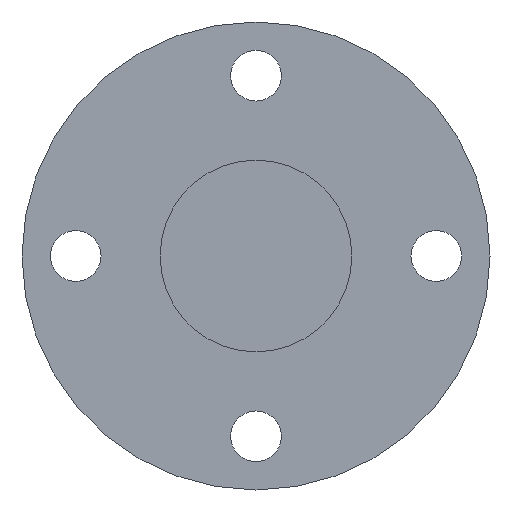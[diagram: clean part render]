
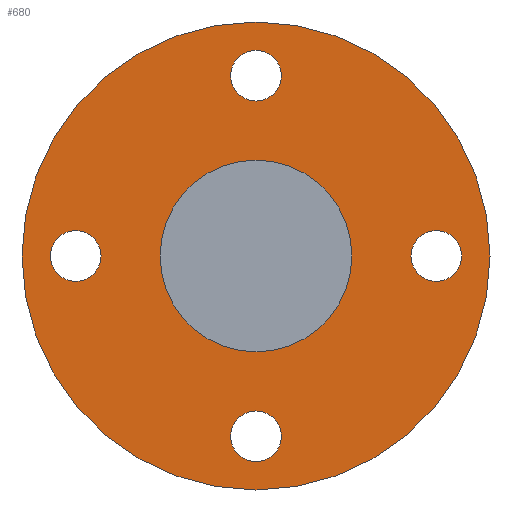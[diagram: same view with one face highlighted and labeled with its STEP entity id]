
A CAD part, left-side view. The second image highlights one B-rep face of the part: STEP entity #680.
In plain terms, the highlighted planar face has unit normal (-1, 0, 0).
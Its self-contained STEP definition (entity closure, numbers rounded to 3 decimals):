
#569=CARTESIAN_POINT('',(125.0,23.5,-3.3));
#570=VERTEX_POINT('',#569);
#571=CARTESIAN_POINT('',(125.0,23.5,0.));
#572=DIRECTION('',(1.0,0.0,0.0));
#573=DIRECTION('',(0.0,0.0,-1.0));
#574=AXIS2_PLACEMENT_3D('',#571,#572,#573);
#575=CIRCLE('',#574,3.3);
#576=EDGE_CURVE('',#570,#570,#575,.T.);
#589=CARTESIAN_POINT('',(125.0,-3.3,-23.5));
#590=VERTEX_POINT('',#589);
#591=CARTESIAN_POINT('',(125.0,0.,-23.5));
#592=DIRECTION('',(1.0,0.0,0.0));
#593=DIRECTION('',(0.0,-1.0,0.0));
#594=AXIS2_PLACEMENT_3D('',#591,#592,#593);
#595=CIRCLE('',#594,3.3);
#596=EDGE_CURVE('',#590,#590,#595,.T.);
#609=CARTESIAN_POINT('',(125.0,-23.5,3.3));
#610=VERTEX_POINT('',#609);
#611=CARTESIAN_POINT('',(125.0,-23.5,0.));
#612=DIRECTION('',(1.0,0.0,0.0));
#613=DIRECTION('',(0.0,0.0,1.0));
#614=AXIS2_PLACEMENT_3D('',#611,#612,#613);
#615=CIRCLE('',#614,3.3);
#616=EDGE_CURVE('',#610,#610,#615,.T.);
#629=CARTESIAN_POINT('',(125.0,3.3,23.5));
#630=VERTEX_POINT('',#629);
#631=CARTESIAN_POINT('',(125.0,0.0,23.5));
#632=DIRECTION('',(1.0,0.0,0.0));
#633=DIRECTION('',(0.0,1.0,0.0));
#634=AXIS2_PLACEMENT_3D('',#631,#632,#633);
#635=CIRCLE('',#634,3.3);
#636=EDGE_CURVE('',#630,#630,#635,.T.);
#641=CARTESIAN_POINT('',(125.0,0.0,21.5));
#642=DIRECTION('',(-1.0,0.0,0.0));
#643=DIRECTION('',(0.0,0.0,1.0));
#644=AXIS2_PLACEMENT_3D('',#641,#642,#643);
#645=PLANE('',#644);
#646=CARTESIAN_POINT('',(125.0,0.0,30.5));
#647=VERTEX_POINT('',#646);
#648=CARTESIAN_POINT('',(125.0,0.0,0.0));
#649=DIRECTION('',(-1.0,0.0,0.0));
#650=DIRECTION('',(0.0,0.0,1.0));
#651=AXIS2_PLACEMENT_3D('',#648,#649,#650);
#652=CIRCLE('',#651,30.5);
#653=EDGE_CURVE('',#647,#647,#652,.T.);
#654=ORIENTED_EDGE('',*,*,#653,.T.);
#655=EDGE_LOOP('',(#654));
#656=FACE_OUTER_BOUND('',#655,.T.);
#657=ORIENTED_EDGE('',*,*,#576,.T.);
#658=EDGE_LOOP('',(#657));
#659=FACE_BOUND('',#658,.T.);
#660=ORIENTED_EDGE('',*,*,#596,.T.);
#661=EDGE_LOOP('',(#660));
#662=FACE_BOUND('',#661,.T.);
#663=ORIENTED_EDGE('',*,*,#616,.T.);
#664=EDGE_LOOP('',(#663));
#665=FACE_BOUND('',#664,.T.);
#666=ORIENTED_EDGE('',*,*,#636,.T.);
#667=EDGE_LOOP('',(#666));
#668=FACE_BOUND('',#667,.T.);
#669=CARTESIAN_POINT('',(125.0,0.0,12.5));
#670=VERTEX_POINT('',#669);
#671=CARTESIAN_POINT('',(125.0,0.0,0.0));
#672=DIRECTION('',(-1.0,0.0,0.0));
#673=DIRECTION('',(0.0,0.0,1.0));
#674=AXIS2_PLACEMENT_3D('',#671,#672,#673);
#675=CIRCLE('',#674,12.5);
#676=EDGE_CURVE('',#670,#670,#675,.T.);
#677=ORIENTED_EDGE('',*,*,#676,.F.);
#678=EDGE_LOOP('',(#677));
#679=FACE_BOUND('',#678,.T.);
#680=ADVANCED_FACE('',(#656,#659,#662,#665,#668,#679),#645,.T.);
